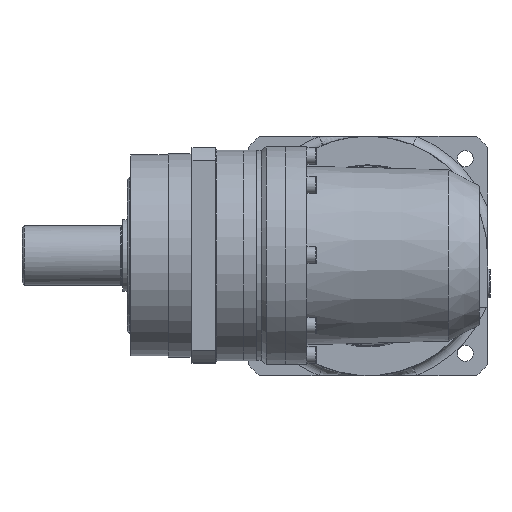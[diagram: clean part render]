
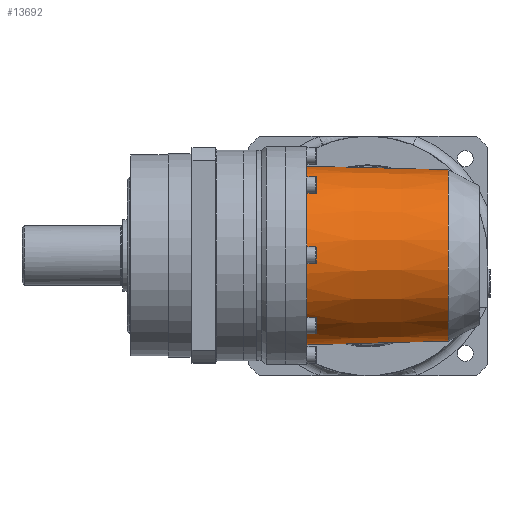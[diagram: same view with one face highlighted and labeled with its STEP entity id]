
A CAD part, top view. The second image highlights one B-rep face of the part: STEP entity #13692.
In plain terms, the highlighted conical face has half-angle 1.493 degrees and reference radius 36.52 mm.
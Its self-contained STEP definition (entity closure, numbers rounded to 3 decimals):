
#756=CONICAL_SURFACE('',#15243,36.52,0.026);
#1517=FACE_OUTER_BOUND('',#2312,.T.);
#2312=EDGE_LOOP('',(#10053,#10054,#10055,#10056,#10057,#10058,#10059,#10060,
#10061,#10062,#10063));
#3169=B_SPLINE_CURVE_WITH_KNOTS('',3,(#22770,#22771,#22772,#22773),
 .UNSPECIFIED.,.F.,.F.,(4,4),(-4.459,-0.312),
 .UNSPECIFIED.);
#3170=B_SPLINE_CURVE_WITH_KNOTS('',3,(#22776,#22777,#22778,#22779,#22780,
#22781),.UNSPECIFIED.,.F.,.F.,(4,2,4),(7.893,8.066,
8.315),.UNSPECIFIED.);
#3171=B_SPLINE_CURVE_WITH_KNOTS('',3,(#22792,#22793,#22794,#22795),
 .UNSPECIFIED.,.F.,.F.,(4,4),(-4.152,-0.005),
 .UNSPECIFIED.);
#3172=B_SPLINE_CURVE_WITH_KNOTS('',3,(#22797,#22798,#22799,#22800,#22801,
#22802),.UNSPECIFIED.,.F.,.F.,(4,2,4),(1.596,1.844,
2.017),.UNSPECIFIED.);
#3173=B_SPLINE_CURVE_WITH_KNOTS('',3,(#22803,#22804,#22805,#22806,#22807,
#22808,#22809,#22810,#22811,#22812,#22813,#22814,#22815,#22816,#22817,#22818,
#22819,#22820,#22821,#22822,#22823,#22824),.UNSPECIFIED.,.F.,.F.,(4,2,2,
2,2,2,2,2,2,2,4),(2.017,2.459,3.083,3.707,
4.331,4.955,5.579,6.203,6.827,
7.451,7.893),.UNSPECIFIED.);
#3414=LINE('',#22785,#4113);
#4113=VECTOR('',#17681,36.52);
#4825=CIRCLE('',#15244,37.29);
#4826=CIRCLE('',#15245,35.75);
#4827=CIRCLE('',#15246,35.75);
#4828=CIRCLE('',#15247,37.29);
#6015=VERTEX_POINT('',#22729);
#6018=VERTEX_POINT('',#22744);
#6019=VERTEX_POINT('',#22775);
#6020=VERTEX_POINT('',#22782);
#6021=VERTEX_POINT('',#22784);
#6022=VERTEX_POINT('',#22786);
#6023=VERTEX_POINT('',#22789);
#6024=VERTEX_POINT('',#22791);
#6025=VERTEX_POINT('',#22796);
#7643=EDGE_CURVE('',#6018,#6015,#3169,.T.);
#7644=EDGE_CURVE('',#6019,#6015,#3170,.T.);
#7645=EDGE_CURVE('',#6020,#6018,#4825,.T.);
#7646=EDGE_CURVE('',#6020,#6021,#3414,.T.);
#7647=EDGE_CURVE('',#6021,#6022,#4826,.T.);
#7648=EDGE_CURVE('',#6022,#6021,#4827,.T.);
#7649=EDGE_CURVE('',#6023,#6020,#4828,.T.);
#7650=EDGE_CURVE('',#6024,#6023,#3171,.T.);
#7651=EDGE_CURVE('',#6024,#6025,#3172,.T.);
#7652=EDGE_CURVE('',#6025,#6019,#3173,.T.);
#10053=ORIENTED_EDGE('',*,*,#7644,.T.);
#10054=ORIENTED_EDGE('',*,*,#7643,.F.);
#10055=ORIENTED_EDGE('',*,*,#7645,.F.);
#10056=ORIENTED_EDGE('',*,*,#7646,.T.);
#10057=ORIENTED_EDGE('',*,*,#7647,.T.);
#10058=ORIENTED_EDGE('',*,*,#7648,.T.);
#10059=ORIENTED_EDGE('',*,*,#7646,.F.);
#10060=ORIENTED_EDGE('',*,*,#7649,.F.);
#10061=ORIENTED_EDGE('',*,*,#7650,.F.);
#10062=ORIENTED_EDGE('',*,*,#7651,.T.);
#10063=ORIENTED_EDGE('',*,*,#7652,.T.);
#13692=ADVANCED_FACE('',(#1517),#756,.T.);
#15243=AXIS2_PLACEMENT_3D('',#22774,#17677,#17678);
#15244=AXIS2_PLACEMENT_3D('',#22783,#17679,#17680);
#15245=AXIS2_PLACEMENT_3D('',#22787,#17682,#17683);
#15246=AXIS2_PLACEMENT_3D('',#22788,#17684,#17685);
#15247=AXIS2_PLACEMENT_3D('',#22790,#17686,#17687);
#17677=DIRECTION('center_axis',(-1.,0.,0.));
#17678=DIRECTION('ref_axis',(0.,-1.,0.));
#17679=DIRECTION('center_axis',(-1.,0.,0.));
#17680=DIRECTION('ref_axis',(0.,0.,1.));
#17681=DIRECTION('',(1.,-0.026,0.));
#17682=DIRECTION('center_axis',(-1.,0.,0.));
#17683=DIRECTION('ref_axis',(0.,0.,1.));
#17684=DIRECTION('center_axis',(-1.,0.,0.));
#17685=DIRECTION('ref_axis',(0.,0.,1.));
#17686=DIRECTION('center_axis',(-1.,0.,0.));
#17687=DIRECTION('ref_axis',(0.,0.,1.));
#22729=CARTESIAN_POINT('',(50.455,-25.979,25.224));
#22744=CARTESIAN_POINT('',(9.,-26.553,26.182));
#22770=CARTESIAN_POINT('Ctrl Pts',(9.,-26.553,26.182));
#22771=CARTESIAN_POINT('Ctrl Pts',(22.818,-26.362,25.863));
#22772=CARTESIAN_POINT('Ctrl Pts',(36.637,-26.17,25.544));
#22773=CARTESIAN_POINT('Ctrl Pts',(50.455,-25.979,25.224));
#22774=CARTESIAN_POINT('Origin',(38.55,0.,0.));
#22775=CARTESIAN_POINT('',(53.981,-23.984,27.005));
#22776=CARTESIAN_POINT('Ctrl Pts',(53.981,-23.984,27.005));
#22777=CARTESIAN_POINT('Ctrl Pts',(53.524,-24.281,26.758));
#22778=CARTESIAN_POINT('Ctrl Pts',(53.058,-24.568,26.51));
#22779=CARTESIAN_POINT('Ctrl Pts',(51.892,-25.245,25.912));
#22780=CARTESIAN_POINT('Ctrl Pts',(51.183,-25.624,25.563));
#22781=CARTESIAN_POINT('Ctrl Pts',(50.455,-25.979,25.224));
#22782=CARTESIAN_POINT('',(9.,37.29,0.));
#22783=CARTESIAN_POINT('Origin',(9.,0.,0.));
#22784=CARTESIAN_POINT('',(68.1,35.75,0.));
#22785=CARTESIAN_POINT('',(38.55,36.52,0.));
#22786=CARTESIAN_POINT('',(68.1,-35.75,0.));
#22787=CARTESIAN_POINT('Origin',(68.1,0.,0.));
#22788=CARTESIAN_POINT('Origin',(68.1,0.,0.));
#22789=CARTESIAN_POINT('',(9.,26.553,26.182));
#22790=CARTESIAN_POINT('Origin',(9.,0.,0.));
#22791=CARTESIAN_POINT('',(50.455,25.979,25.224));
#22792=CARTESIAN_POINT('Ctrl Pts',(50.455,25.979,25.224));
#22793=CARTESIAN_POINT('Ctrl Pts',(36.637,26.17,25.544));
#22794=CARTESIAN_POINT('Ctrl Pts',(22.818,26.362,25.863));
#22795=CARTESIAN_POINT('Ctrl Pts',(9.,26.553,26.182));
#22796=CARTESIAN_POINT('',(53.981,23.984,27.005));
#22797=CARTESIAN_POINT('Ctrl Pts',(50.455,25.979,25.224));
#22798=CARTESIAN_POINT('Ctrl Pts',(51.183,25.624,25.563));
#22799=CARTESIAN_POINT('Ctrl Pts',(51.892,25.245,25.912));
#22800=CARTESIAN_POINT('Ctrl Pts',(53.058,24.568,26.51));
#22801=CARTESIAN_POINT('Ctrl Pts',(53.524,24.281,26.758));
#22802=CARTESIAN_POINT('Ctrl Pts',(53.981,23.984,27.005));
#22803=CARTESIAN_POINT('Ctrl Pts',(53.981,23.984,27.005));
#22804=CARTESIAN_POINT('Ctrl Pts',(55.153,23.221,27.642));
#22805=CARTESIAN_POINT('Ctrl Pts',(56.255,22.395,28.282));
#22806=CARTESIAN_POINT('Ctrl Pts',(58.71,20.295,29.765));
#22807=CARTESIAN_POINT('Ctrl Pts',(60.093,18.881,30.654));
#22808=CARTESIAN_POINT('Ctrl Pts',(62.584,15.725,32.315));
#22809=CARTESIAN_POINT('Ctrl Pts',(63.692,13.983,33.086));
#22810=CARTESIAN_POINT('Ctrl Pts',(65.512,10.258,34.374));
#22811=CARTESIAN_POINT('Ctrl Pts',(66.226,8.272,34.892));
#22812=CARTESIAN_POINT('Ctrl Pts',(67.18,4.182,35.589));
#22813=CARTESIAN_POINT('Ctrl Pts',(67.421,2.08,35.768));
#22814=CARTESIAN_POINT('Ctrl Pts',(67.421,-2.08,35.768));
#22815=CARTESIAN_POINT('Ctrl Pts',(67.18,-4.182,35.589));
#22816=CARTESIAN_POINT('Ctrl Pts',(66.226,-8.272,34.892));
#22817=CARTESIAN_POINT('Ctrl Pts',(65.512,-10.258,34.374));
#22818=CARTESIAN_POINT('Ctrl Pts',(63.692,-13.983,33.086));
#22819=CARTESIAN_POINT('Ctrl Pts',(62.584,-15.725,32.315));
#22820=CARTESIAN_POINT('Ctrl Pts',(60.093,-18.881,30.654));
#22821=CARTESIAN_POINT('Ctrl Pts',(58.71,-20.295,29.765));
#22822=CARTESIAN_POINT('Ctrl Pts',(56.255,-22.395,28.282));
#22823=CARTESIAN_POINT('Ctrl Pts',(55.153,-23.221,27.642));
#22824=CARTESIAN_POINT('Ctrl Pts',(53.981,-23.984,27.005));
